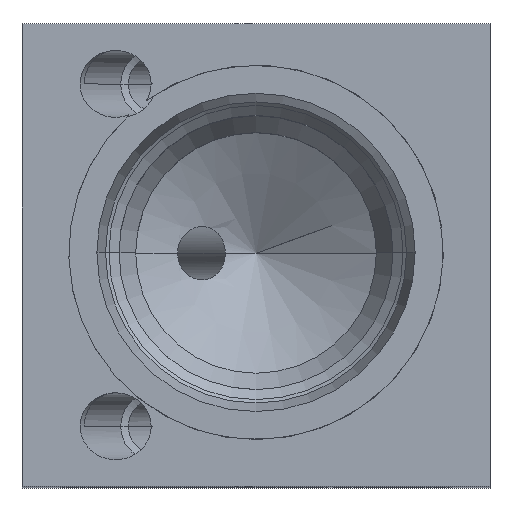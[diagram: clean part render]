
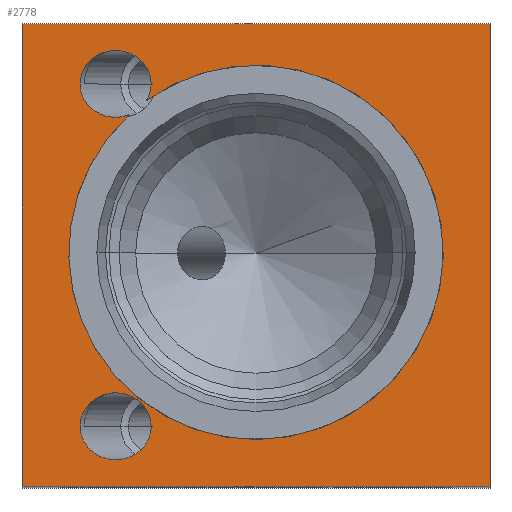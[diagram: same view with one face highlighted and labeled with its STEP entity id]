
A CAD part, top view. The second image highlights one B-rep face of the part: STEP entity #2778.
In plain terms, the highlighted planar face has unit normal (0, 0, 1).
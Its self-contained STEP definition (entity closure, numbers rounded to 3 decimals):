
#22=DIRECTION('',(0.,-1.,0.));
#23=VECTOR('',#22,34.6);
#24=CARTESIAN_POINT('',(0.,34.6,0.));
#25=LINE('',#24,#23);
#30=DIRECTION('',(-1.,0.,0.));
#31=VECTOR('',#30,35.);
#32=CARTESIAN_POINT('',(0.,0.,0.));
#33=LINE('',#32,#31);
#37=DIRECTION('',(0.,1.,0.));
#38=VECTOR('',#37,34.6);
#39=CARTESIAN_POINT('',(-35.,0.,0.));
#40=LINE('',#39,#38);
#44=DIRECTION('',(1.,0.,0.));
#45=VECTOR('',#44,35.);
#46=CARTESIAN_POINT('',(-35.,34.6,0.));
#47=LINE('',#46,#45);
#51=CARTESIAN_POINT('',(-25.34,30.1,0.));
#52=CARTESIAN_POINT('',(-25.34,29.875,0.));
#53=CARTESIAN_POINT('',(-25.403,29.443,0.));
#54=CARTESIAN_POINT('',(-25.578,29.042,0.));
#55=CARTESIAN_POINT('',(-25.696,28.85,0.));
#60=CARTESIAN_POINT('',(-25.34,30.1,0.));
#61=CARTESIAN_POINT('',(-25.34,30.315,0.));
#62=CARTESIAN_POINT('',(-25.395,30.69,0.));
#63=CARTESIAN_POINT('',(-25.572,31.158,0.));
#64=CARTESIAN_POINT('',(-25.819,31.555,0.));
#65=CARTESIAN_POINT('',(-26.127,31.893,0.));
#66=CARTESIAN_POINT('',(-26.49,32.175,0.));
#67=CARTESIAN_POINT('',(-26.912,32.397,0.));
#68=CARTESIAN_POINT('',(-27.402,32.553,0.));
#69=CARTESIAN_POINT('',(-27.785,32.6,0.));
#70=CARTESIAN_POINT('',(-28.,32.6,0.));
#75=CARTESIAN_POINT('',(-25.34,4.5,0.));
#76=CARTESIAN_POINT('',(-25.34,4.715,0.));
#77=CARTESIAN_POINT('',(-25.395,5.09,0.));
#78=CARTESIAN_POINT('',(-25.572,5.558,0.));
#79=CARTESIAN_POINT('',(-25.819,5.955,0.));
#80=CARTESIAN_POINT('',(-26.127,6.293,0.));
#81=CARTESIAN_POINT('',(-26.49,6.575,0.));
#82=CARTESIAN_POINT('',(-26.912,6.797,0.));
#83=CARTESIAN_POINT('',(-27.402,6.953,0.));
#84=CARTESIAN_POINT('',(-27.785,7.,0.));
#85=CARTESIAN_POINT('',(-28.,7.,0.));
#1249=CARTESIAN_POINT('',(-17.5,17.5,0.));
#1250=DIRECTION('',(0.,0.,-1.));
#1251=DIRECTION('',(-0.585,0.811,0.));
#1252=AXIS2_PLACEMENT_3D('',#1249,#1250,#1251);
#1263=CARTESIAN_POINT('',(-27.,27.783,0.));
#1284=CARTESIAN_POINT('',(-27.,27.783,0.));
#1285=CARTESIAN_POINT('',(-27.159,27.723,0.));
#1286=CARTESIAN_POINT('',(-27.503,27.625,0.));
#1287=CARTESIAN_POINT('',(-28.083,27.58,0.));
#1288=CARTESIAN_POINT('',(-28.692,27.662,0.));
#1289=CARTESIAN_POINT('',(-29.279,27.881,0.));
#1290=CARTESIAN_POINT('',(-29.795,28.224,0.));
#1291=CARTESIAN_POINT('',(-30.133,28.586,0.));
#1292=CARTESIAN_POINT('',(-30.339,28.899,0.));
#1293=CARTESIAN_POINT('',(-30.462,29.14,0.));
#1294=CARTESIAN_POINT('',(-30.538,29.342,0.));
#1295=CARTESIAN_POINT('',(-30.584,29.503,0.));
#1296=CARTESIAN_POINT('',(-30.612,29.621,0.));
#1297=CARTESIAN_POINT('',(-30.634,29.741,0.));
#1298=CARTESIAN_POINT('',(-30.655,29.906,0.));
#1299=CARTESIAN_POINT('',(-30.665,30.121,0.));
#1300=CARTESIAN_POINT('',(-30.648,30.387,0.));
#1301=CARTESIAN_POINT('',(-30.582,30.75,0.));
#1302=CARTESIAN_POINT('',(-30.414,31.205,0.));
#1303=CARTESIAN_POINT('',(-30.073,31.705,0.));
#1304=CARTESIAN_POINT('',(-29.616,32.115,0.));
#1305=CARTESIAN_POINT('',(-29.085,32.406,0.));
#1306=CARTESIAN_POINT('',(-28.529,32.569,0.));
#1307=CARTESIAN_POINT('',(-28.171,32.6,0.));
#1308=CARTESIAN_POINT('',(-28.,32.6,0.));
#2159=CARTESIAN_POINT('',(-25.34,4.5,0.));
#2160=CARTESIAN_POINT('',(-25.34,4.308,0.));
#2161=CARTESIAN_POINT('',(-25.387,3.892,0.));
#2162=CARTESIAN_POINT('',(-25.667,3.221,0.));
#2163=CARTESIAN_POINT('',(-26.2,2.598,0.));
#2164=CARTESIAN_POINT('',(-26.962,2.146,0.));
#2165=CARTESIAN_POINT('',(-27.842,1.959,0.));
#2166=CARTESIAN_POINT('',(-28.547,2.031,0.));
#2167=CARTESIAN_POINT('',(-29.039,2.189,0.));
#2168=CARTESIAN_POINT('',(-29.367,2.347,0.));
#2169=CARTESIAN_POINT('',(-29.603,2.5,0.));
#2170=CARTESIAN_POINT('',(-29.769,2.631,0.));
#2171=CARTESIAN_POINT('',(-29.882,2.731,0.));
#2172=CARTESIAN_POINT('',(-29.989,2.837,0.));
#2173=CARTESIAN_POINT('',(-30.128,2.994,0.));
#2174=CARTESIAN_POINT('',(-30.292,3.215,0.));
#2175=CARTESIAN_POINT('',(-30.459,3.523,0.));
#2176=CARTESIAN_POINT('',(-30.627,3.986,0.));
#2177=CARTESIAN_POINT('',(-30.704,4.649,0.));
#2178=CARTESIAN_POINT('',(-30.505,5.475,0.));
#2179=CARTESIAN_POINT('',(-30.024,6.191,0.));
#2180=CARTESIAN_POINT('',(-29.361,6.693,0.));
#2181=CARTESIAN_POINT('',(-28.647,6.956,0.));
#2182=CARTESIAN_POINT('',(-28.205,7.,0.));
#2183=CARTESIAN_POINT('',(-28.,7.,0.));
#2484=CARTESIAN_POINT('',(0.,34.6,0.));
#2485=CARTESIAN_POINT('',(0.,0.,0.));
#2486=VERTEX_POINT('',#2484);
#2487=VERTEX_POINT('',#2485);
#2488=CARTESIAN_POINT('',(-35.,34.6,0.));
#2489=VERTEX_POINT('',#2488);
#2490=CARTESIAN_POINT('',(-35.,0.,0.));
#2491=VERTEX_POINT('',#2490);
#2646=CARTESIAN_POINT('',(-25.34,30.1,0.));
#2647=VERTEX_POINT('',#2646);
#2652=VERTEX_POINT('',#55);
#2657=CARTESIAN_POINT('',(-28.,32.6,0.));
#2659=VERTEX_POINT('',#2657);
#2661=VERTEX_POINT('',#1263);
#2669=CARTESIAN_POINT('',(-25.34,4.5,0.));
#2670=VERTEX_POINT('',#2669);
#2679=CARTESIAN_POINT('',(-28.,7.,0.));
#2681=VERTEX_POINT('',#2679);
#2747=CARTESIAN_POINT('',(0.,0.,0.));
#2748=DIRECTION('',(0.,0.,1.));
#2749=DIRECTION('',(1.,0.,0.));
#2750=AXIS2_PLACEMENT_3D('',#2747,#2748,#2749);
#2751=PLANE('',#2750);
#2753=ORIENTED_EDGE('',*,*,#2752,.T.);
#2755=ORIENTED_EDGE('',*,*,#2754,.T.);
#2757=ORIENTED_EDGE('',*,*,#2756,.T.);
#2759=ORIENTED_EDGE('',*,*,#2758,.T.);
#2760=EDGE_LOOP('',(#2753,#2755,#2757,#2759));
#2761=FACE_OUTER_BOUND('',#2760,.F.);
#2763=ORIENTED_EDGE('',*,*,#2762,.F.);
#2765=ORIENTED_EDGE('',*,*,#2764,.F.);
#2767=ORIENTED_EDGE('',*,*,#2766,.F.);
#2769=ORIENTED_EDGE('',*,*,#2768,.T.);
#2770=EDGE_LOOP('',(#2763,#2765,#2767,#2769));
#2771=FACE_BOUND('',#2770,.F.);
#2773=ORIENTED_EDGE('',*,*,#2772,.F.);
#2775=ORIENTED_EDGE('',*,*,#2774,.T.);
#2776=EDGE_LOOP('',(#2773,#2775));
#2777=FACE_BOUND('',#2776,.F.);
#56=B_SPLINE_CURVE_WITH_KNOTS('',3,(#51,#52,#53,#54,#55),.UNSPECIFIED.,.F.,.F.,(
4,1,4),(0.,0.5,1.),.UNSPECIFIED.);
#71=B_SPLINE_CURVE_WITH_KNOTS('',3,(#60,#61,#62,#63,#64,#65,#66,#67,#68,#69,
#70),.UNSPECIFIED.,.F.,.F.,(4,1,1,1,1,1,1,1,4),(0.,0.125,0.25,0.375,
0.5,0.625,0.75,0.875,1.),.UNSPECIFIED.);
#86=B_SPLINE_CURVE_WITH_KNOTS('',3,(#75,#76,#77,#78,#79,#80,#81,#82,#83,#84,
#85),.UNSPECIFIED.,.F.,.F.,(4,1,1,1,1,1,1,1,4),(0.,0.125,0.25,0.375,
0.5,0.625,0.75,0.875,1.),.UNSPECIFIED.);
#1253=CIRCLE('',#1252,14.);
#1309=B_SPLINE_CURVE_WITH_KNOTS('',3,(#1284,#1285,#1286,#1287,#1288,#1289,#1290,
#1291,#1292,#1293,#1294,#1295,#1296,#1297,#1298,#1299,#1300,#1301,#1302,#1303,
#1304,#1305,#1306,#1307,#1308),.UNSPECIFIED.,.F.,.F.,(4,1,1,1,1,1,1,1,1,1,1,1,1,
1,1,1,1,1,1,1,1,1,4),(0.,0.063,0.125,0.188,0.25,0.313,0.375,
0.406,0.438,0.469,0.484,0.5,0.516,0.531,0.563,
0.594,0.625,0.688,0.75,0.813,0.875,0.938,1.),
.UNSPECIFIED.);
#2184=B_SPLINE_CURVE_WITH_KNOTS('',3,(#2159,#2160,#2161,#2162,#2163,#2164,#2165,
#2166,#2167,#2168,#2169,#2170,#2171,#2172,#2173,#2174,#2175,#2176,#2177,#2178,
#2179,#2180,#2181,#2182,#2183),.UNSPECIFIED.,.F.,.F.,(4,1,1,1,1,1,1,1,1,1,1,1,1,
1,1,1,1,1,1,1,1,1,4),(0.,0.063,0.125,0.188,0.25,0.313,0.375,
0.406,0.438,0.469,0.484,0.5,0.516,0.531,0.563,
0.594,0.625,0.688,0.75,0.813,0.875,0.938,1.),
.UNSPECIFIED.);
#2752=EDGE_CURVE('',#2486,#2487,#25,.T.);
#2754=EDGE_CURVE('',#2487,#2491,#33,.T.);
#2756=EDGE_CURVE('',#2491,#2489,#40,.T.);
#2758=EDGE_CURVE('',#2489,#2486,#47,.T.);
#2762=EDGE_CURVE('',#2661,#2659,#1309,.T.);
#2764=EDGE_CURVE('',#2652,#2661,#1253,.T.);
#2766=EDGE_CURVE('',#2647,#2652,#56,.T.);
#2768=EDGE_CURVE('',#2647,#2659,#71,.T.);
#2772=EDGE_CURVE('',#2670,#2681,#2184,.T.);
#2774=EDGE_CURVE('',#2670,#2681,#86,.T.);
#2778=ADVANCED_FACE('',(#2761,#2771,#2777),#2751,.T.);
